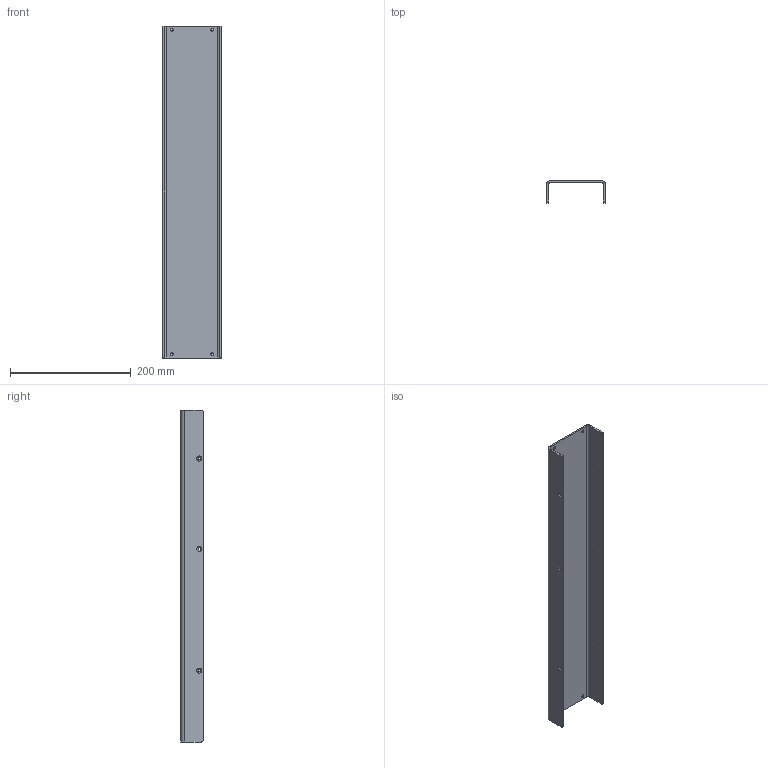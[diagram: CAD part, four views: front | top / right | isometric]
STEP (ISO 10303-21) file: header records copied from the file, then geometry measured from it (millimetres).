
FILE_DESCRIPTION(/* description */ (''),/* implementation_level */ '2;1');
FILE_NAME(/* name */ 'C:/Users/anton/Documents/Kerbal Space Program/Kerbal_Control_Panel/KCP2/CAD/STEPs/GaugeTower_BackPlate_v16_Folded.step',/* time_stamp */ '2020-11-12T08:30:45-08:00',/* author */ (''),/* organization */ (''),/* preprocessor_version */ 'ST-DEVELOPER v18.1',/* originating_system */ 'Autodesk Translation Framework v9.3.0.1241',/* authorisation */ '');
FILE_SCHEMA (('AUTOMOTIVE_DESIGN { 1 0 10303 214 3 1 1 }'));
Length unit declared in the file: millimetre
Products named in the file (1): Back Plate
Bounding box: 97 x 37 x 551 mm (x, y, z)
Volume: 265453.6 mm3; surface area: 181811 mm2
Topology: 1 solids, 1 shells, 46 faces, 106 edges, 62 vertices
Faces by surface type: cylinder 18, plane 18, cone 10
Full cylindrical faces by diameter (mm): 4.496 x10
Entity records: 1390 total; most frequent: DIRECTION 246, CARTESIAN_POINT 215, ORIENTED_EDGE 212, EDGE_CURVE 106, AXIS2_PLACEMENT_3D 93, EDGE_LOOP 66, VERTEX_POINT 62, LINE 60
